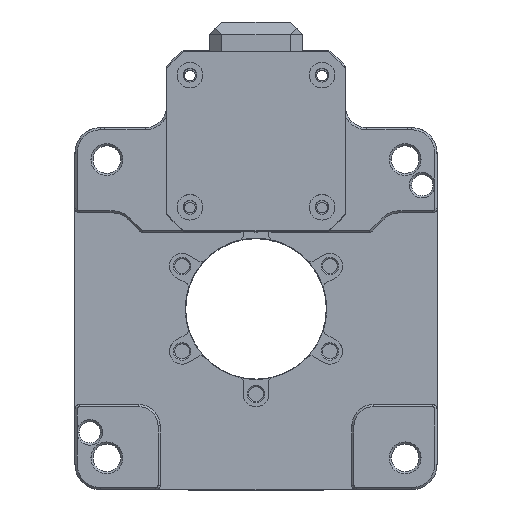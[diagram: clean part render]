
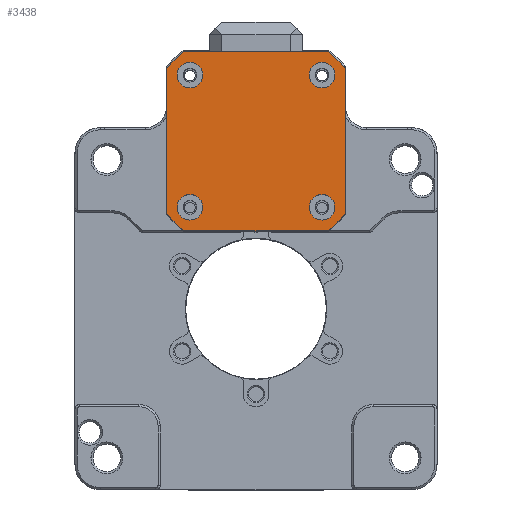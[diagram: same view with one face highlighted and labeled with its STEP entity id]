
A CAD part, top view. The second image highlights one B-rep face of the part: STEP entity #3438.
In plain terms, the highlighted planar face has unit normal (0, 0, 1).
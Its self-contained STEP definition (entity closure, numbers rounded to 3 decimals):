
#38 = EDGE_CURVE ( 'NONE', #8041, #15630, #7494, .T. ) ;
#272 = CARTESIAN_POINT ( 'NONE',  ( -24.4, 63.255, 48.35 ) ) ;
#736 = CARTESIAN_POINT ( 'NONE',  ( -20.37, 67.285, 48.35 ) ) ;
#931 = DIRECTION ( 'NONE',  ( -1., 0., 0. ) ) ;
#1206 = AXIS2_PLACEMENT_3D ( 'NONE', #13506, #11566, #13621 ) ;
#1259 = ORIENTED_EDGE ( 'NONE', *, *, #8718, .F. ) ;
#1357 = DIRECTION ( 'NONE',  ( 0., 0., 1. ) ) ;
#1481 = DIRECTION ( 'NONE',  ( 1., 0., 0. ) ) ;
#1528 = DIRECTION ( 'NONE',  ( 0., 0., 1. ) ) ;
#1724 = CARTESIAN_POINT ( 'NONE',  ( -3.4, 46.285, 48.35 ) ) ;
#1735 = FACE_OUTER_BOUND ( 'NONE', #16232, .T. ) ;
#1985 = CARTESIAN_POINT ( 'NONE',  ( -20.37, 67.285, 48.35 ) ) ;
#2150 = DIRECTION ( 'NONE',  ( -1., 0., 0. ) ) ;
#2389 = CARTESIAN_POINT ( 'NONE',  ( -3.4, 46.285, 48.35 ) ) ;
#2414 = CIRCLE ( 'NONE', #23704, 27. ) ;
#2678 = EDGE_CURVE ( 'NONE', #12548, #13328, #2790, .T. ) ;
#2790 = CIRCLE ( 'NONE', #14026, 27. ) ;
#2951 = CIRCLE ( 'NONE', #13811, 3. ) ;
#3429 = PLANE ( 'NONE',  #16273 ) ;
#3438 = ADVANCED_FACE ( 'NONE', ( #13015, #14606, #10821, #20434, #1735 ), #3429, .F. ) ;
#3440 = CARTESIAN_POINT ( 'NONE',  ( -24.4, 29.314, 48.35 ) ) ;
#3992 = VERTEX_POINT ( 'NONE', #20882 ) ;
#4108 = DIRECTION ( 'NONE',  ( 1., 0., 0. ) ) ;
#4854 = EDGE_CURVE ( 'NONE', #5270, #17904, #11715, .T. ) ;
#5058 = DIRECTION ( 'NONE',  ( 0., 0., -1. ) ) ;
#5111 = EDGE_CURVE ( 'NONE', #14188, #11543, #7847, .T. ) ;
#5220 = DIRECTION ( 'NONE',  ( -1., 0., 0. ) ) ;
#5270 = VERTEX_POINT ( 'NONE', #18939 ) ;
#5311 = ORIENTED_EDGE ( 'NONE', *, *, #19263, .F. ) ;
#5316 = CARTESIAN_POINT ( 'NONE',  ( 17.6, 29.314, 48.35 ) ) ;
#5414 = VECTOR ( 'NONE', #7603, 1000. ) ;
#5746 = LINE ( 'NONE', #1985, #10227 ) ;
#6029 = DIRECTION ( 'NONE',  ( 0., 0., 1. ) ) ;
#6106 = CARTESIAN_POINT ( 'NONE',  ( 17.6, 63.255, 48.35 ) ) ;
#6143 = DIRECTION ( 'NONE',  ( -1., 0., 0. ) ) ;
#6267 = DIRECTION ( 'NONE',  ( 0., 0., -1. ) ) ;
#6366 = EDGE_CURVE ( 'NONE', #20854, #10603, #20082, .T. ) ;
#6470 = VERTEX_POINT ( 'NONE', #736 ) ;
#6547 = CARTESIAN_POINT ( 'NONE',  ( 12.1, 61.785, 48.35 ) ) ;
#6591 = LINE ( 'NONE', #19236, #8534 ) ;
#7199 = CARTESIAN_POINT ( 'NONE',  ( 15.1, 61.785, 48.35 ) ) ;
#7494 = CIRCLE ( 'NONE', #8651, 3. ) ;
#7603 = DIRECTION ( 'NONE',  ( -1., 0., 0. ) ) ;
#7733 = AXIS2_PLACEMENT_3D ( 'NONE', #7754, #9816, #20993 ) ;
#7754 = CARTESIAN_POINT ( 'NONE',  ( 12.1, 30.785, 48.35 ) ) ;
#7770 = EDGE_CURVE ( 'NONE', #6470, #15803, #5746, .T. ) ;
#7847 = CIRCLE ( 'NONE', #21790, 3. ) ;
#7866 = EDGE_CURVE ( 'NONE', #17904, #5270, #19546, .T. ) ;
#7932 = ORIENTED_EDGE ( 'NONE', *, *, #12300, .F. ) ;
#8041 = VERTEX_POINT ( 'NONE', #11035 ) ;
#8060 = EDGE_LOOP ( 'NONE', ( #1259, #10653 ) ) ;
#8280 = ORIENTED_EDGE ( 'NONE', *, *, #4854, .F. ) ;
#8294 = ORIENTED_EDGE ( 'NONE', *, *, #7770, .F. ) ;
#8507 = EDGE_CURVE ( 'NONE', #9191, #20056, #2951, .T. ) ;
#8534 = VECTOR ( 'NONE', #17522, 1000. ) ;
#8651 = AXIS2_PLACEMENT_3D ( 'NONE', #17411, #19608, #6143 ) ;
#8718 = EDGE_CURVE ( 'NONE', #20056, #9191, #16143, .T. ) ;
#8916 = DIRECTION ( 'NONE',  ( -1., 0., 0. ) ) ;
#9191 = VERTEX_POINT ( 'NONE', #17854 ) ;
#9418 = LINE ( 'NONE', #9776, #5414 ) ;
#9747 = CIRCLE ( 'NONE', #16715, 3. ) ;
#9776 = CARTESIAN_POINT ( 'NONE',  ( -20.37, 25.285, 48.35 ) ) ;
#9816 = DIRECTION ( 'NONE',  ( 0., 0., 1. ) ) ;
#10227 = VECTOR ( 'NONE', #13150, 1000. ) ;
#10477 = CARTESIAN_POINT ( 'NONE',  ( -18.9, 30.785, 48.35 ) ) ;
#10603 = VERTEX_POINT ( 'NONE', #272 ) ;
#10653 = ORIENTED_EDGE ( 'NONE', *, *, #8507, .F. ) ;
#10756 = CARTESIAN_POINT ( 'NONE',  ( -3.4, 46.285, 48.35 ) ) ;
#10760 = ORIENTED_EDGE ( 'NONE', *, *, #18203, .F. ) ;
#10821 = FACE_BOUND ( 'NONE', #13827, .T. ) ;
#11035 = CARTESIAN_POINT ( 'NONE',  ( 9.1, 30.785, 48.35 ) ) ;
#11082 = CARTESIAN_POINT ( 'NONE',  ( 12.1, 61.785, 48.35 ) ) ;
#11465 = EDGE_CURVE ( 'NONE', #13328, #3992, #9418, .T. ) ;
#11543 = VERTEX_POINT ( 'NONE', #16950 ) ;
#11566 = DIRECTION ( 'NONE',  ( 0., 0., -1. ) ) ;
#11715 = CIRCLE ( 'NONE', #15592, 3. ) ;
#11865 = EDGE_LOOP ( 'NONE', ( #15581, #7932 ) ) ;
#12069 = DIRECTION ( 'NONE',  ( 0., 0., 1. ) ) ;
#12163 = VECTOR ( 'NONE', #23696, 1000. ) ;
#12300 = EDGE_CURVE ( 'NONE', #15630, #8041, #21681, .T. ) ;
#12548 = VERTEX_POINT ( 'NONE', #5316 ) ;
#13015 = FACE_BOUND ( 'NONE', #11865, .T. ) ;
#13150 = DIRECTION ( 'NONE',  ( 1., 0., 0. ) ) ;
#13328 = VERTEX_POINT ( 'NONE', #18480 ) ;
#13404 = AXIS2_PLACEMENT_3D ( 'NONE', #2389, #6267, #4108 ) ;
#13506 = CARTESIAN_POINT ( 'NONE',  ( -3.4, 46.285, 48.35 ) ) ;
#13621 = DIRECTION ( 'NONE',  ( 1., 0., 0. ) ) ;
#13811 = AXIS2_PLACEMENT_3D ( 'NONE', #20590, #6029, #2150 ) ;
#13827 = EDGE_LOOP ( 'NONE', ( #15812, #17408 ) ) ;
#14026 = AXIS2_PLACEMENT_3D ( 'NONE', #10756, #5058, #14283 ) ;
#14069 = EDGE_LOOP ( 'NONE', ( #8280, #18860 ) ) ;
#14188 = VERTEX_POINT ( 'NONE', #22393 ) ;
#14216 = EDGE_CURVE ( 'NONE', #11543, #14188, #9747, .T. ) ;
#14283 = DIRECTION ( 'NONE',  ( 1., 0., 0. ) ) ;
#14486 = DIRECTION ( 'NONE',  ( -1., 0., 0. ) ) ;
#14606 = FACE_BOUND ( 'NONE', #8060, .T. ) ;
#14701 = CARTESIAN_POINT ( 'NONE',  ( -18.9, 61.785, 48.35 ) ) ;
#15581 = ORIENTED_EDGE ( 'NONE', *, *, #38, .F. ) ;
#15592 = AXIS2_PLACEMENT_3D ( 'NONE', #11082, #23691, #14486 ) ;
#15630 = VERTEX_POINT ( 'NONE', #17691 ) ;
#15803 = VERTEX_POINT ( 'NONE', #21814 ) ;
#15812 = ORIENTED_EDGE ( 'NONE', *, *, #14216, .F. ) ;
#16016 = DIRECTION ( 'NONE',  ( 0., 0., 1. ) ) ;
#16110 = CIRCLE ( 'NONE', #13404, 27. ) ;
#16143 = CIRCLE ( 'NONE', #23507, 3. ) ;
#16232 = EDGE_LOOP ( 'NONE', ( #20977, #8294, #10760, #16658, #5311, #19438, #23336, #22519 ) ) ;
#16273 = AXIS2_PLACEMENT_3D ( 'NONE', #21883, #23812, #20070 ) ;
#16658 = ORIENTED_EDGE ( 'NONE', *, *, #6366, .F. ) ;
#16672 = CARTESIAN_POINT ( 'NONE',  ( -21.9, 30.785, 48.35 ) ) ;
#16715 = AXIS2_PLACEMENT_3D ( 'NONE', #20466, #1528, #8916 ) ;
#16851 = VERTEX_POINT ( 'NONE', #6106 ) ;
#16950 = CARTESIAN_POINT ( 'NONE',  ( -21.9, 61.785, 48.35 ) ) ;
#17408 = ORIENTED_EDGE ( 'NONE', *, *, #5111, .F. ) ;
#17411 = CARTESIAN_POINT ( 'NONE',  ( 12.1, 30.785, 48.35 ) ) ;
#17463 = CIRCLE ( 'NONE', #1206, 27. ) ;
#17522 = DIRECTION ( 'NONE',  ( 0., -1., 0. ) ) ;
#17691 = CARTESIAN_POINT ( 'NONE',  ( 15.1, 30.785, 48.35 ) ) ;
#17753 = EDGE_CURVE ( 'NONE', #16851, #12548, #6591, .T. ) ;
#17854 = CARTESIAN_POINT ( 'NONE',  ( -15.9, 30.785, 48.35 ) ) ;
#17904 = VERTEX_POINT ( 'NONE', #7199 ) ;
#18203 = EDGE_CURVE ( 'NONE', #10603, #6470, #17463, .T. ) ;
#18480 = CARTESIAN_POINT ( 'NONE',  ( 13.571, 25.285, 48.35 ) ) ;
#18860 = ORIENTED_EDGE ( 'NONE', *, *, #7866, .F. ) ;
#18939 = CARTESIAN_POINT ( 'NONE',  ( 9.1, 61.785, 48.35 ) ) ;
#19168 = AXIS2_PLACEMENT_3D ( 'NONE', #6547, #16016, #5220 ) ;
#19236 = CARTESIAN_POINT ( 'NONE',  ( 17.6, 29.314, 48.35 ) ) ;
#19263 = EDGE_CURVE ( 'NONE', #3992, #20854, #2414, .T. ) ;
#19438 = ORIENTED_EDGE ( 'NONE', *, *, #11465, .F. ) ;
#19546 = CIRCLE ( 'NONE', #19168, 3. ) ;
#19608 = DIRECTION ( 'NONE',  ( 0., 0., 1. ) ) ;
#20050 = DIRECTION ( 'NONE',  ( -1., 0., 0. ) ) ;
#20056 = VERTEX_POINT ( 'NONE', #16672 ) ;
#20070 = DIRECTION ( 'NONE',  ( -1., 0., 0. ) ) ;
#20082 = LINE ( 'NONE', #3440, #12163 ) ;
#20300 = DIRECTION ( 'NONE',  ( 0., 0., -1. ) ) ;
#20434 = FACE_BOUND ( 'NONE', #14069, .T. ) ;
#20466 = CARTESIAN_POINT ( 'NONE',  ( -18.9, 61.785, 48.35 ) ) ;
#20590 = CARTESIAN_POINT ( 'NONE',  ( -18.9, 30.785, 48.35 ) ) ;
#20854 = VERTEX_POINT ( 'NONE', #22947 ) ;
#20882 = CARTESIAN_POINT ( 'NONE',  ( -20.37, 25.285, 48.35 ) ) ;
#20977 = ORIENTED_EDGE ( 'NONE', *, *, #23271, .F. ) ;
#20993 = DIRECTION ( 'NONE',  ( -1., 0., 0. ) ) ;
#21681 = CIRCLE ( 'NONE', #7733, 3. ) ;
#21790 = AXIS2_PLACEMENT_3D ( 'NONE', #14701, #1357, #20050 ) ;
#21814 = CARTESIAN_POINT ( 'NONE',  ( 13.571, 67.285, 48.35 ) ) ;
#21883 = CARTESIAN_POINT ( 'NONE',  ( -3.4, 46.285, 48.35 ) ) ;
#22393 = CARTESIAN_POINT ( 'NONE',  ( -15.9, 61.785, 48.35 ) ) ;
#22519 = ORIENTED_EDGE ( 'NONE', *, *, #17753, .F. ) ;
#22947 = CARTESIAN_POINT ( 'NONE',  ( -24.4, 29.314, 48.35 ) ) ;
#23271 = EDGE_CURVE ( 'NONE', #15803, #16851, #16110, .T. ) ;
#23336 = ORIENTED_EDGE ( 'NONE', *, *, #2678, .F. ) ;
#23507 = AXIS2_PLACEMENT_3D ( 'NONE', #10477, #12069, #931 ) ;
#23691 = DIRECTION ( 'NONE',  ( 0., 0., 1. ) ) ;
#23696 = DIRECTION ( 'NONE',  ( 0., 1., 0. ) ) ;
#23704 = AXIS2_PLACEMENT_3D ( 'NONE', #1724, #20300, #1481 ) ;
#23812 = DIRECTION ( 'NONE',  ( 0., 0., -1. ) ) ;
